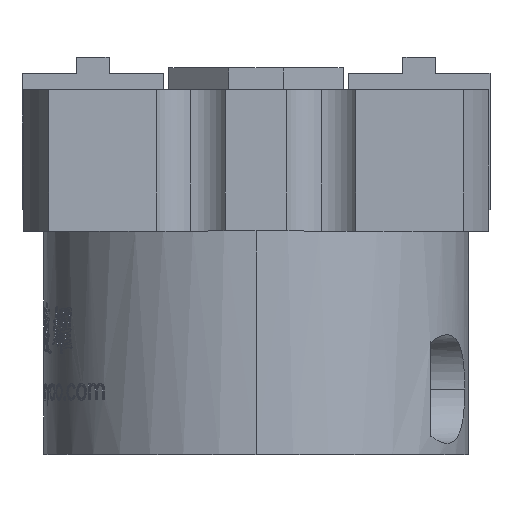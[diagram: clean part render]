
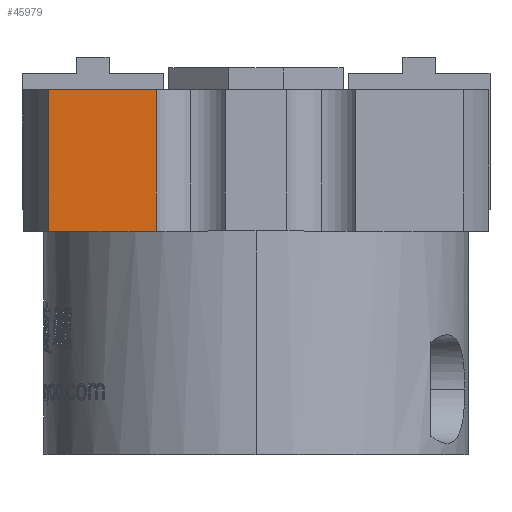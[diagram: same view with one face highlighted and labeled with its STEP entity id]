
A CAD part, top view. The second image highlights one B-rep face of the part: STEP entity #45979.
In plain terms, the highlighted planar face has unit normal (0, 0, 1).
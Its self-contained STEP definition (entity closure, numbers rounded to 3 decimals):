
#1088 = CARTESIAN_POINT ( 'NONE',  ( -15.37, 20.5, 12. ) ) ;
#5263 = FACE_OUTER_BOUND ( 'NONE', #27774, .T. ) ;
#6485 = CARTESIAN_POINT ( 'NONE',  ( 0., 20.5, 12. ) ) ;
#8086 = CARTESIAN_POINT ( 'NONE',  ( -9.172, 33.5, 12. ) ) ;
#9471 = CARTESIAN_POINT ( 'NONE',  ( -9.172, 33.5, 12. ) ) ;
#10498 = VERTEX_POINT ( 'NONE', #62527 ) ;
#11499 = ORIENTED_EDGE ( 'NONE', *, *, #40044, .F. ) ;
#11790 = CARTESIAN_POINT ( 'NONE',  ( -19.033, 20.5, 12. ) ) ;
#13869 = LINE ( 'NONE', #9471, #43815 ) ;
#14130 = VERTEX_POINT ( 'NONE', #50370 ) ;
#14310 = CARTESIAN_POINT ( 'NONE',  ( -19.033, 33.5, 12. ) ) ;
#15039 = DIRECTION ( 'NONE',  ( 0., 1., 0. ) ) ;
#15049 = ORIENTED_EDGE ( 'NONE', *, *, #57942, .F. ) ;
#17663 = ORIENTED_EDGE ( 'NONE', *, *, #21997, .T. ) ;
#18658 = VECTOR ( 'NONE', #15039, 1000. ) ;
#19421 = DIRECTION ( 'NONE',  ( 0., 0., -1. ) ) ;
#20093 = AXIS2_PLACEMENT_3D ( 'NONE', #8086, #19421, #58802 ) ;
#21997 = EDGE_CURVE ( 'NONE', #53398, #61282, #72231, .T. ) ;
#22457 = CARTESIAN_POINT ( 'NONE',  ( 0., 20.5, 12. ) ) ;
#23196 = VECTOR ( 'NONE', #68557, 1000. ) ;
#24275 = VECTOR ( 'NONE', #47257, 1000. ) ;
#25943 = VERTEX_POINT ( 'NONE', #47018 ) ;
#27774 = EDGE_LOOP ( 'NONE', ( #53813, #63530, #15049, #11499, #17663 ) ) ;
#35580 = EDGE_CURVE ( 'NONE', #10498, #61282, #39911, .T. ) ;
#36163 = PLANE ( 'NONE',  #20093 ) ;
#39911 = LINE ( 'NONE', #6485, #23196 ) ;
#40044 = EDGE_CURVE ( 'NONE', #53398, #25943, #61816, .T. ) ;
#43693 = DIRECTION ( 'NONE',  ( 1., 0., 0. ) ) ;
#43815 = VECTOR ( 'NONE', #43693, 1000. ) ;
#43999 = VECTOR ( 'NONE', #61830, 1000. ) ;
#45979 = ADVANCED_FACE ( 'NONE', ( #5263 ), #36163, .F. ) ;
#47018 = CARTESIAN_POINT ( 'NONE',  ( -19.033, 33.5, 12. ) ) ;
#47257 = DIRECTION ( 'NONE',  ( 0., -1., 0. ) ) ;
#50370 = CARTESIAN_POINT ( 'NONE',  ( -9.172, 33.5, 12. ) ) ;
#52427 = LINE ( 'NONE', #69423, #24275 ) ;
#53398 = VERTEX_POINT ( 'NONE', #11790 ) ;
#53813 = ORIENTED_EDGE ( 'NONE', *, *, #35580, .F. ) ;
#57942 = EDGE_CURVE ( 'NONE', #25943, #14130, #13869, .T. ) ;
#58802 = DIRECTION ( 'NONE',  ( -1., 0., 0. ) ) ;
#61282 = VERTEX_POINT ( 'NONE', #1088 ) ;
#61816 = LINE ( 'NONE', #14310, #18658 ) ;
#61830 = DIRECTION ( 'NONE',  ( 1., 0., 0. ) ) ;
#62527 = CARTESIAN_POINT ( 'NONE',  ( -9.172, 20.5, 12. ) ) ;
#63530 = ORIENTED_EDGE ( 'NONE', *, *, #71135, .F. ) ;
#68557 = DIRECTION ( 'NONE',  ( -1., 0., 0. ) ) ;
#69423 = CARTESIAN_POINT ( 'NONE',  ( -9.172, 33.5, 12. ) ) ;
#71135 = EDGE_CURVE ( 'NONE', #14130, #10498, #52427, .T. ) ;
#72231 = LINE ( 'NONE', #22457, #43999 ) ;
